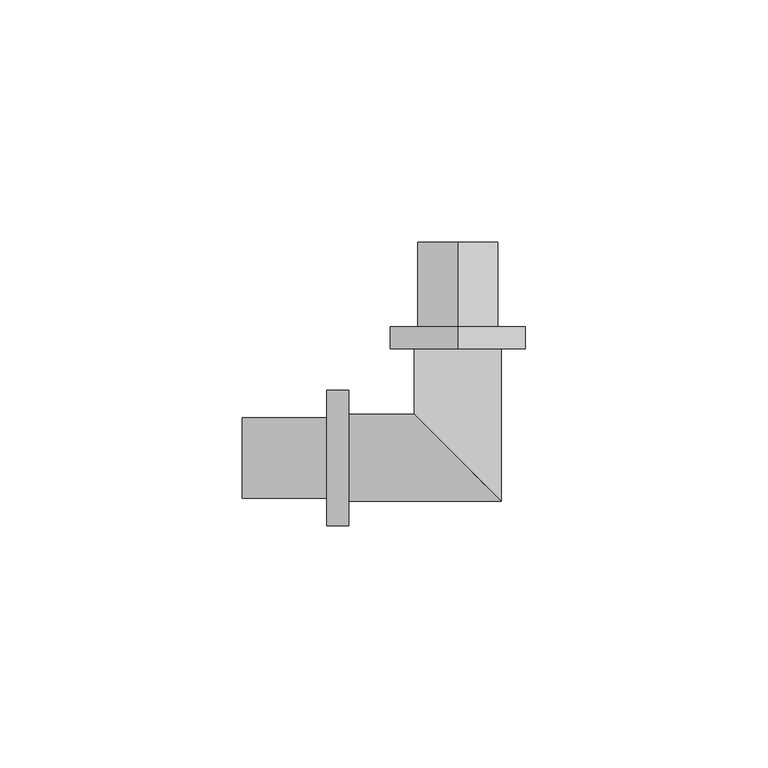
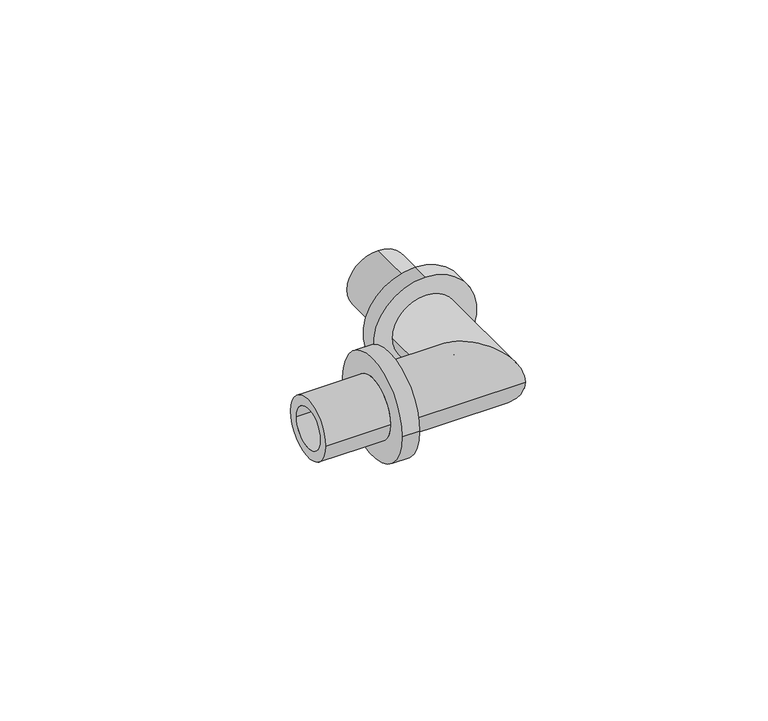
"""IFC4 building model written with IfcOpenShell, lengths in millimetres: pipe fitting geometry, RAUTITAN_Corner_PX : RTI PX C DE."""

from ifc_helpers import new_model, si_unit, frame, origin, place, context, project, spatial, polyline, circle_curve, ellipse_curve, source, transform, mapped, element, save
from ifc_brep_helpers import plane_surface, cylinder_surface, revolved_surface, advanced_brep


def pipe_fitting_4c711bda(model_context):
    return source(origin(), model_context, "Body", "AdvancedBrep", [
        advanced_brep(
        [(0.0, 27.1, 14.0), (0.0, 27.1, -14.0), (0.0, 22.5, -14.0), (0.0, 22.5, 14.0), (0.0, 44.5, 8.3), (0.0, 44.5, -8.3), (0.0, 27.1, -8.3), (0.0, 27.1, 8.3), (0.0, 22.5, 5.6), (0.0, 22.5, -5.6), (0.0, 44.5, -5.6), (0.0, 44.5, 5.6)],
        [
            (0, 1, circle_curve(frame((0.0, 27.1, 0.0), z_axis=(0.0, -1.0, 0.0), x_axis=(0.0, 0.0, -1.0)), 14.0)),
            (1, 2),
            (2, 3, circle_curve(frame((0.0, 22.5, 0.0), z_axis=(0.0, 1.0, 0.0), x_axis=(0.0, 0.0, -1.0)), 14.0)),
            (3, 0),
            (4, 5, circle_curve(frame((0.0, 44.5, 0.0), z_axis=(0.0, -1.0, 0.0), x_axis=(0.0, 0.0, -1.0)), 8.3)),
            (5, 6),
            (6, 7, circle_curve(frame((0.0, 27.1, 0.0), z_axis=(0.0, 1.0, 0.0), x_axis=(0.0, 0.0, -1.0)), 8.3)),
            (7, 4),
            (8, 9, circle_curve(frame((0.0, 22.5, 0.0), z_axis=(0.0, -1.0, 0.0), x_axis=(0.0, 0.0, -1.0)), 5.6)),
            (9, 10),
            (10, 11, circle_curve(frame((0.0, 44.5, 0.0), z_axis=(0.0, 1.0, 0.0), x_axis=(0.0, 0.0, -1.0)), 5.6)),
            (11, 8),
            (1, 0, circle_curve(frame((0.0, 27.1, 0.0), z_axis=(0.0, -1.0, 0.0), x_axis=(0.0, 0.0, 1.0)), 14.0)),
            (3, 2, circle_curve(frame((0.0, 22.5, 0.0), z_axis=(0.0, 1.0, 0.0), x_axis=(0.0, 0.0, 1.0)), 14.0)),
            (6, 7, circle_curve(frame((0.0, 27.1, 0.0), z_axis=(0.0, -1.0, 0.0), x_axis=(0.0, 0.0, 1.0)), 8.3)),
            (5, 4, circle_curve(frame((0.0, 44.5, 0.0), z_axis=(0.0, -1.0, 0.0), x_axis=(0.0, 0.0, 1.0)), 8.3)),
            (10, 11, circle_curve(frame((0.0, 44.5, 0.0), z_axis=(0.0, -1.0, 0.0), x_axis=(0.0, 0.0, 1.0)), 5.6)),
            (9, 8, circle_curve(frame((0.0, 22.5, 0.0), z_axis=(0.0, -1.0, 0.0), x_axis=(0.0, 0.0, 1.0)), 5.6)),
        ],
        [
            cylinder_surface(frame((0.0, 22.5, 0.0), z_axis=(0.0, 1.0, 0.0), x_axis=(0.0, 0.0, -1.0)), 14.0),
            cylinder_surface(frame((0.0, 22.5, 0.0), z_axis=(0.0, 1.0, 0.0), x_axis=(0.0, 0.0, -1.0)), 8.3),
            revolved_surface(polyline([(0.0, 44.5, -5.6), (0.0, 22.5, -5.6)]), (0.0, 22.5, 0.0), (0.0, 1.0, 0.0)),
            cylinder_surface(frame((0.0, 22.5, 0.0), z_axis=(0.0, 1.0, 0.0), x_axis=(0.0, 0.0, 1.0)), 14.0),
            plane_surface(frame((0.0, 27.1, 0.0), z_axis=(0.0, 1.0, 0.0), x_axis=(0.0, 0.0, 1.0))),
            cylinder_surface(frame((0.0, 22.5, 0.0), z_axis=(0.0, 1.0, 0.0), x_axis=(0.0, 0.0, 1.0)), 8.3),
            plane_surface(frame((0.0, 44.5, 0.0), z_axis=(0.0, 1.0, 0.0), x_axis=(0.0, 0.0, 1.0))),
            revolved_surface(polyline([(0.0, 44.5, 5.6), (0.0, 22.5, 5.6)]), (0.0, 22.5, 0.0), (0.0, 1.0, 0.0)),
            plane_surface(frame((0.0, 22.5, 0.0), z_axis=(0.0, -1.0, 0.0), x_axis=(0.0, 0.0, 1.0))),
        ],
        [
            (0, [[1, 2, 3, 4]]),
            (1, [[5, 6, 7, 8]]),
            (2, [[9, 10, 11, 12]]),
            (3, [[13, -4, 14, -2]]),
            (4, [[-13, -1], [15, -7]]),
            (5, [[16, -8, -15, -6]]),
            (6, [[-16, -5], [17, -11]]),
            (7, [[18, -12, -17, -10]]),
            (8, [[-14, -3], [-18, -9]]),
        ],
    ),
        advanced_brep(
        [(-27.1, -14.0, 0.0), (-27.1, 14.0, 0.0), (-22.5, 14.0, 0.0), (-22.5, -14.0, 0.0), (-44.5, -8.3, 0.0), (-44.5, 8.3, 0.0), (-27.1, 8.3, 0.0), (-27.1, -8.3, 0.0), (-22.5, -5.6, 0.0), (-22.5, 5.6, 0.0), (-44.5, 5.6, 0.0), (-44.5, -5.6, 0.0)],
        [
            (0, 1, circle_curve(frame((-27.1, 0.0, 0.0), z_axis=(1.0, 0.0, 0.0), x_axis=(0.0, 1.0, 0.0)), 14.0)),
            (1, 2),
            (2, 3, circle_curve(frame((-22.5, 0.0, 0.0), z_axis=(-1.0, 0.0, 0.0), x_axis=(0.0, 1.0, 0.0)), 14.0)),
            (3, 0),
            (4, 5, circle_curve(frame((-44.5, 0.0, 0.0), z_axis=(1.0, 0.0, 0.0), x_axis=(0.0, 1.0, 0.0)), 8.3)),
            (5, 6),
            (6, 7, circle_curve(frame((-27.1, 0.0, 0.0), z_axis=(-1.0, 0.0, 0.0), x_axis=(0.0, 1.0, 0.0)), 8.3)),
            (7, 4),
            (8, 9, circle_curve(frame((-22.5, 0.0, 0.0), z_axis=(1.0, 0.0, 0.0), x_axis=(0.0, 1.0, 0.0)), 5.6)),
            (9, 10),
            (10, 11, circle_curve(frame((-44.5, 0.0, 0.0), z_axis=(-1.0, 0.0, 0.0), x_axis=(0.0, 1.0, 0.0)), 5.6)),
            (11, 8),
            (1, 0, circle_curve(frame((-27.1, 0.0, 0.0), z_axis=(1.0, 0.0, 0.0), x_axis=(0.0, -1.0, 0.0)), 14.0)),
            (3, 2, circle_curve(frame((-22.5, 0.0, 0.0), z_axis=(-1.0, 0.0, 0.0), x_axis=(0.0, -1.0, 0.0)), 14.0)),
            (6, 7, circle_curve(frame((-27.1, 0.0, 0.0), z_axis=(1.0, 0.0, 0.0), x_axis=(0.0, -1.0, 0.0)), 8.3)),
            (5, 4, circle_curve(frame((-44.5, 0.0, 0.0), z_axis=(1.0, 0.0, 0.0), x_axis=(0.0, -1.0, 0.0)), 8.3)),
            (10, 11, circle_curve(frame((-44.5, 0.0, 0.0), z_axis=(1.0, 0.0, 0.0), x_axis=(0.0, -1.0, 0.0)), 5.6)),
            (9, 8, circle_curve(frame((-22.5, 0.0, 0.0), z_axis=(1.0, 0.0, 0.0), x_axis=(0.0, -1.0, 0.0)), 5.6)),
        ],
        [
            cylinder_surface(frame((-22.5, 0.0, 0.0), z_axis=(-1.0, 0.0, 0.0), x_axis=(0.0, 1.0, 0.0)), 14.0),
            cylinder_surface(frame((-22.5, 0.0, 0.0), z_axis=(-1.0, 0.0, 0.0), x_axis=(0.0, 1.0, 0.0)), 8.3),
            revolved_surface(polyline([(-44.5, 5.6, 0.0), (-22.5, 5.6, 0.0)]), (-22.5, 0.0, 0.0), (-1.0, 0.0, 0.0)),
            cylinder_surface(frame((-22.5, 0.0, 0.0), z_axis=(-1.0, 0.0, 0.0), x_axis=(0.0, -1.0, 0.0)), 14.0),
            plane_surface(frame((-27.1, 0.0, 0.0), z_axis=(-1.0, 0.0, 0.0), x_axis=(0.0, -1.0, 0.0))),
            cylinder_surface(frame((-22.5, 0.0, 0.0), z_axis=(-1.0, 0.0, 0.0), x_axis=(0.0, -1.0, 0.0)), 8.3),
            plane_surface(frame((-44.5, 0.0, 0.0), z_axis=(-1.0, 0.0, 0.0), x_axis=(0.0, -1.0, 0.0))),
            revolved_surface(polyline([(-44.5, -5.6, 0.0), (-22.5, -5.6, 0.0)]), (-22.5, 0.0, 0.0), (-1.0, 0.0, 0.0)),
            plane_surface(frame((-22.5, 0.0, 0.0), z_axis=(1.0, 0.0, 0.0), x_axis=(0.0, -1.0, 0.0))),
        ],
        [
            (0, [[1, 2, 3, 4]]),
            (1, [[5, 6, 7, 8]]),
            (2, [[9, 10, 11, 12]]),
            (3, [[13, -4, 14, -2]]),
            (4, [[-13, -1], [15, -7]]),
            (5, [[16, -8, -15, -6]]),
            (6, [[-16, -5], [17, -11]]),
            (7, [[18, -12, -17, -10]]),
            (8, [[-14, -3], [-18, -9]]),
        ],
    ),
        advanced_brep(
        [(-22.5, -9.0, 0.0), (-22.5, 9.0, 0.0), (-22.5, -5.6, 0.0), (-22.5, 5.6, 0.0), (-5.6, 5.6, 0.0), (5.6, -5.6, 0.0), (9.0, 22.5, 0.0), (-9.0, 22.5, 0.0), (5.6, 22.5, 0.0), (-5.6, 22.5, 0.0), (9.0, -9.0, 0.0), (-9.0, 9.0, 0.0)],
        [
            (0, 1, circle_curve(frame((-22.5, 0.0, 0.0), z_axis=(-1.0, 0.0, 0.0), x_axis=(0.0, 1.0, 0.0)), 9.0)),
            (1, 0, circle_curve(frame((-22.5, 0.0, 0.0), z_axis=(-1.0, 0.0, 0.0), x_axis=(0.0, 1.0, 0.0)), 9.0)),
            (2, 3, circle_curve(frame((-22.5, 0.0, 0.0), z_axis=(1.0, 0.0, 0.0), x_axis=(0.0, 1.0, 0.0)), 5.6)),
            (3, 2, circle_curve(frame((-22.5, 0.0, 0.0), z_axis=(1.0, 0.0, 0.0), x_axis=(0.0, 1.0, 0.0)), 5.6)),
            (3, 4),
            (4, 5, ellipse_curve(frame((0.0, 0.0, 0.0), z_axis=(0.707106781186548, 0.7071067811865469, 0.0), x_axis=(0.7071067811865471, -0.7071067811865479, 0.0)), 7.9195959, 5.6)),
            (5, 2),
            (5, 4, ellipse_curve(frame((0.0, 0.0, 0.0), z_axis=(0.707106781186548, 0.7071067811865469, 0.0), x_axis=(0.7071067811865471, -0.7071067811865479, 0.0)), 7.9195959, 5.6)),
            (6, 7, circle_curve(frame((0.0, 22.5, 0.0), z_axis=(0.0, 1.0, 0.0), x_axis=(-1.0, 0.0, 0.0)), 9.0)),
            (7, 6, circle_curve(frame((0.0, 22.5, 0.0), z_axis=(0.0, 1.0, 0.0), x_axis=(-1.0, 0.0, 0.0)), 9.0)),
            (8, 9, circle_curve(frame((0.0, 22.5, 0.0), z_axis=(0.0, -1.0, 0.0), x_axis=(-1.0, 0.0, 0.0)), 5.6)),
            (9, 8, circle_curve(frame((0.0, 22.5, 0.0), z_axis=(0.0, -1.0, 0.0), x_axis=(-1.0, 0.0, 0.0)), 5.6)),
            (4, 9),
            (8, 5),
            (0, 10),
            (10, 11, ellipse_curve(frame((0.0, 0.0, 0.0), z_axis=(-0.707106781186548, -0.7071067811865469, 0.0), x_axis=(-0.7071067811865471, 0.7071067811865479, 0.0)), 12.7279221, 9.0)),
            (11, 1),
            (11, 10, ellipse_curve(frame((0.0, 0.0, 0.0), z_axis=(-0.707106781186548, -0.7071067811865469, 0.0), x_axis=(-0.7071067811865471, 0.7071067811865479, 0.0)), 12.7279221, 9.0)),
            (10, 6),
            (7, 11),
        ],
        [
            plane_surface(frame((-22.5, 0.0, 0.0), z_axis=(-1.0, 0.0, 0.0), x_axis=(0.0, 0.0, 1.0))),
            revolved_surface(polyline([(5.600000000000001, 5.6, 0.0), (-22.5, 5.6, 0.0)]), (-22.5, 0.0, 0.0), (1.0, 0.0, 0.0)),
            plane_surface(frame((0.0, 22.5, 0.0), z_axis=(0.0, 1.0, 0.0), x_axis=(0.0, 0.0, 1.0))),
            revolved_surface(polyline([(-5.6, 22.5, 0.0), (-5.6, -5.6, 0.0)]), (0.0, 0.0, 0.0), (0.0, 1.0, 0.0)),
            cylinder_surface(frame((-22.5, 0.0, 0.0), z_axis=(-1.0, 0.0, 0.0), x_axis=(0.0, 1.0, 0.0)), 9.0),
            cylinder_surface(frame((0.0, 0.0, 0.0), z_axis=(0.0, -1.0, 0.0), x_axis=(-1.0, 0.0, 0.0)), 9.0),
        ],
        [
            (0, [[1, 2], [3, 4]]),
            (1, [[-4, 5, 6, 7]]),
            (1, [[-3, -7, 8, -5]]),
            (2, [[9, 10], [11, 12]]),
            (3, [[-6, 13, -11, 14]]),
            (3, [[-8, -14, -12, -13]]),
            (4, [[-1, 15, 16, 17]]),
            (4, [[-2, -17, 18, -15]]),
            (5, [[-16, 19, -10, 20]]),
            (5, [[-18, -20, -9, -19]]),
        ],
    ),
    ])


if __name__ == "__main__":
    model = new_model("IFC4")
    model_context = context("Model", 3, world=origin())
    ifc_project = project(units=[si_unit("LENGTHUNIT", "METRE", prefix="MILLI")], contexts=[model_context])
    site = spatial("IfcSite", under=ifc_project)
    building = spatial("IfcBuilding", under=site)
    placement = place(None, origin())
    pipe_fitting_shape = pipe_fitting_4c711bda(model_context)
    element("IfcPipeFitting", 1, ObjectType="RAUTITAN_Corner_PX : RTI PX C DE", at=placement, inside=building, context=model_context, shape_type="MappedRepresentation", body=[
        mapped(pipe_fitting_shape, transform((0.0, 0.0, 0.0), x_axis=(1.0, 0.0, 0.0), y_axis=(0.0, 1.0, 0.0), z_axis=(0.0, 0.0, 1.0))),
    ])
    save(model, "model.ifc")
